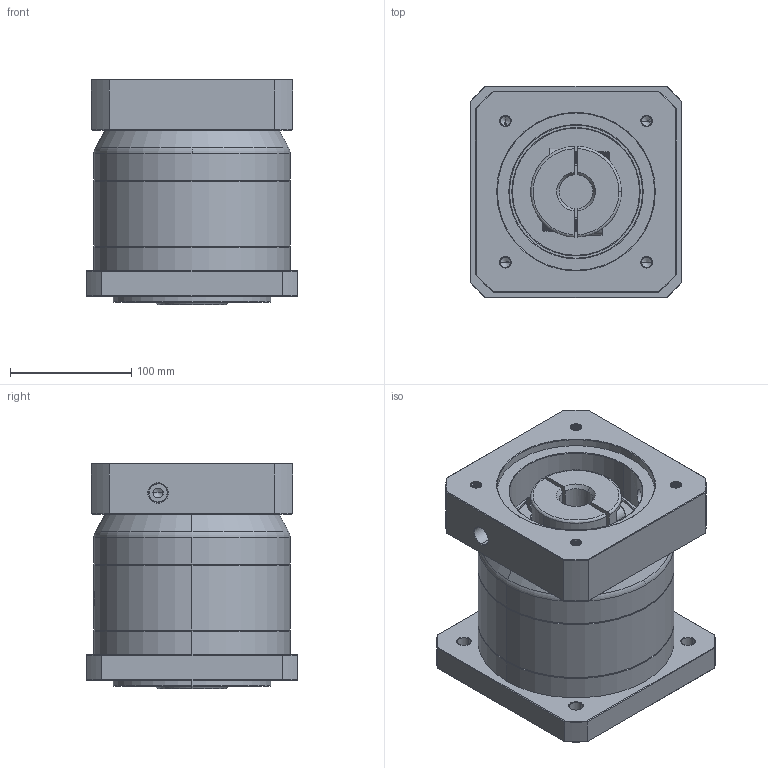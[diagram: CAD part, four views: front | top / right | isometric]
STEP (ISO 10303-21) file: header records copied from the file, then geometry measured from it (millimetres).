
FILE_DESCRIPTION (( 'STEP AP214' ), '1' );
FILE_NAME ('ZF160A-K35-L1-P2-28-130-165-M10.step', '2023-09-03T07:01:21', ( '' ), ( '' ), 'SwSTEP 2.0', 'SolidWorks 2016', '' );
FILE_SCHEMA (( 'AUTOMOTIVE_DESIGN' ));
Length unit declared in the file: millimetre
Products named in the file (1): ZF160A-K35-L1-P2-28-130-165-M10
Bounding box: 175 x 175 x 186.2 mm (x, y, z)
Volume: 3732366.6 mm3; surface area: 319769.9 mm2
Topology: 6 solids, 6 shells, 2146 faces, 5807 edges, 3768 vertices
Faces by surface type: plane 1009, bspline 404, cylinder 392, cone 319, torus 22
Entity records: 118958 total; most frequent: CARTESIAN_POINT 46302, ORIENTED_EDGE 11558, DIRECTION 8460, EDGE_CURVE 5779, VERTEX_POINT 3768, LINE 3008, VECTOR 3008, AXIS2_PLACEMENT_3D 2726
